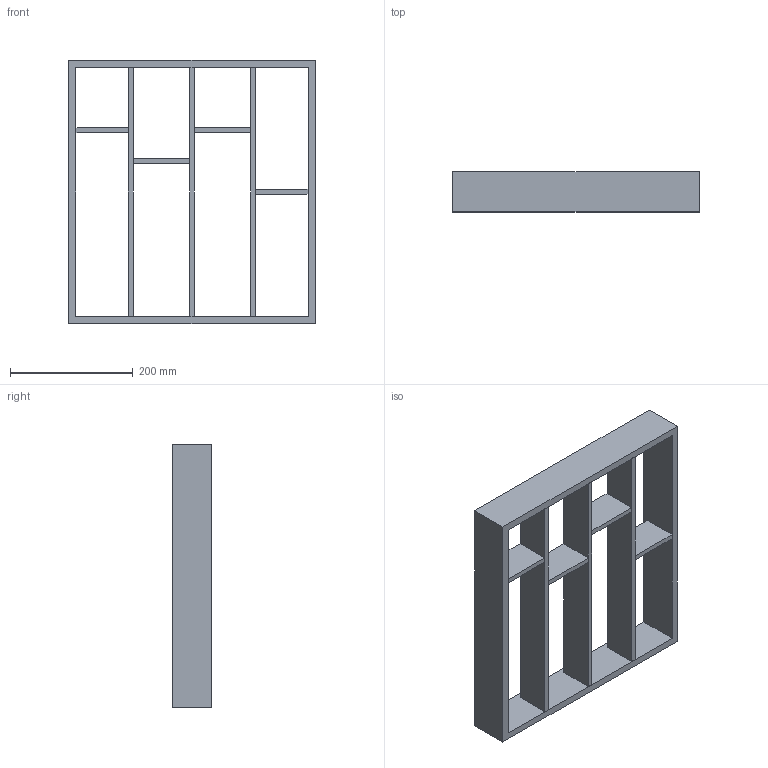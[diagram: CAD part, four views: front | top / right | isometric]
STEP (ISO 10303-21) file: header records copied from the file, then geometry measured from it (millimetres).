
FILE_DESCRIPTION (( 'STEP AP214' ), '1' );
FILE_NAME ('Vario Besteck NL450_B500_19 mm_Buche.step', '2010-11-04T08:33:05', ( 'grass' ), ( '' ), 'SwSTEP 2.0', 'SolidWorks 2010', '' );
FILE_SCHEMA (( 'AUTOMOTIVE_DESIGN' ));
Length unit declared in the file: millimetre
Products named in the file (1): Vario Besteck NL450_B500_19 mm_Buche
Bounding box: 402 x 65 x 429 mm (x, y, z)
Volume: 1974384 mm3; surface area: 458910 mm2
Topology: 8 solids, 8 shells, 52 faces, 108 edges, 72 vertices
Faces by surface type: plane 52
Entity records: 1453 total; most frequent: CARTESIAN_POINT 233, ORIENTED_EDGE 216, DIRECTION 214, LINE 108, VECTOR 108, EDGE_CURVE 108, VERTEX_POINT 72, EDGE_LOOP 54
